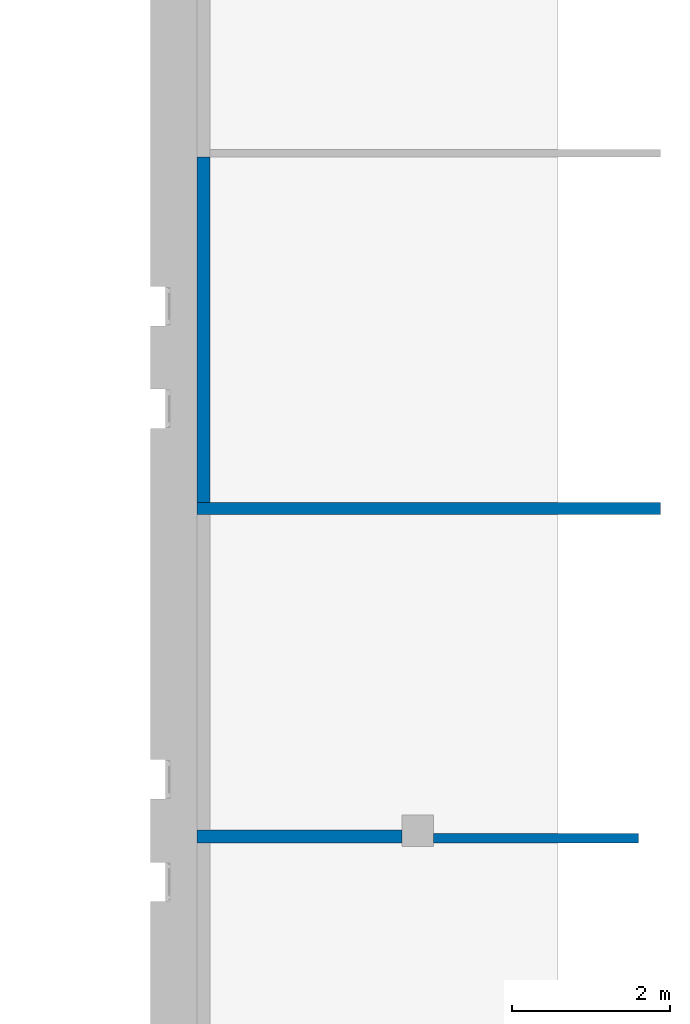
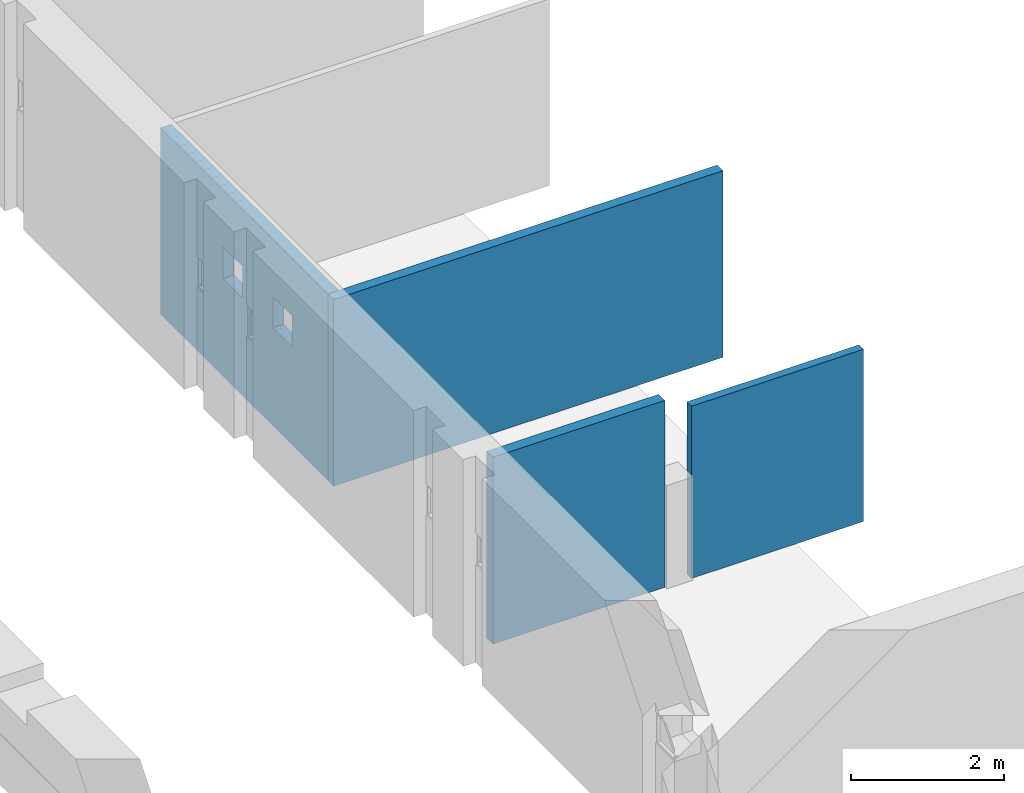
# One storey, part 4 of 11: 4 walls, 15 openings.
"""IFC2X3 building model written with IfcOpenShell, lengths in millimetres."""

from ifc_helpers import new_model, entity, si_unit, converted_unit, derived_unit, direction, frame, frame_2d, origin, origin_2d_with_axis, place, context, subcontext, project, spatial, polyline, circle_curve, parameter, trimmed, segment, composite_curve, rectangle, outline, extrude, clip, bounded_halfspace, material, layer, layer_set, layer_usage, type_object, element, save


model = new_model("IFC2X3")

# Units and contexts
model_context = context("Model", 3, precision=0.01, world=origin(), true_north=direction((6.123031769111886e-17, 1.0)))
body_context = subcontext(model_context, "Body", "Model", "MODEL_VIEW")
ifc_project = project(units=[si_unit("LENGTHUNIT", "METRE", prefix="MILLI"), si_unit("AREAUNIT", "SQUARE_METRE"), si_unit("VOLUMEUNIT", "CUBIC_METRE"), converted_unit("PLANEANGLEUNIT", "DEGREE", entity("IfcPlaneAngleMeasure", 0.017453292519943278), si_unit("PLANEANGLEUNIT", "RADIAN"), dimensions=[0, 0, 0, 0, 0, 0, 0]), si_unit("MASSUNIT", "GRAM", prefix="KILO"), derived_unit("MASSDENSITYUNIT", [(si_unit("MASSUNIT", "GRAM", prefix="KILO"), 1), (si_unit("LENGTHUNIT", "METRE"), -3)]), derived_unit("IONCONCENTRATIONUNIT", [(si_unit("MASSUNIT", "GRAM", prefix="KILO"), 1), (si_unit("LENGTHUNIT", "METRE"), -3)]), derived_unit("MOMENTOFINERTIAUNIT", [(si_unit("LENGTHUNIT", "METRE"), 4)]), si_unit("TIMEUNIT", "SECOND"), si_unit("FREQUENCYUNIT", "HERTZ"), si_unit("THERMODYNAMICTEMPERATUREUNIT", "DEGREE_CELSIUS"), derived_unit("THERMALTRANSMITTANCEUNIT", [(si_unit("MASSUNIT", "GRAM", prefix="KILO"), 1), (si_unit("THERMODYNAMICTEMPERATUREUNIT", "KELVIN"), -1), (si_unit("TIMEUNIT", "SECOND"), -3)]), derived_unit("THERMALCONDUCTANCEUNIT", [(si_unit("MASSUNIT", "GRAM", prefix="KILO"), 1), (si_unit("THERMODYNAMICTEMPERATUREUNIT", "KELVIN"), -1), (si_unit("TIMEUNIT", "SECOND"), -3), (si_unit("LENGTHUNIT", "METRE"), 1)]), derived_unit("VOLUMETRICFLOWRATEUNIT", [(si_unit("LENGTHUNIT", "METRE", prefix="DECI"), 3), (si_unit("TIMEUNIT", "SECOND"), -1)]), derived_unit("MASSFLOWRATEUNIT", [(si_unit("MASSUNIT", "GRAM", prefix="KILO"), 1), (si_unit("TIMEUNIT", "SECOND"), -1)]), derived_unit("ROTATIONALFREQUENCYUNIT", [(si_unit("TIMEUNIT", "SECOND"), -1)]), si_unit("ELECTRICCURRENTUNIT", "AMPERE"), si_unit("ELECTRICVOLTAGEUNIT", "VOLT"), si_unit("POWERUNIT", "WATT"), si_unit("FORCEUNIT", "NEWTON", prefix="KILO"), si_unit("ILLUMINANCEUNIT", "LUX"), si_unit("LUMINOUSFLUXUNIT", "LUMEN"), si_unit("LUMINOUSINTENSITYUNIT", "CANDELA"), si_unit("ENERGYUNIT", "JOULE"), derived_unit("USERDEFINED", [(si_unit("MASSUNIT", "GRAM", prefix="KILO"), -1), (si_unit("LENGTHUNIT", "METRE"), -2), (si_unit("TIMEUNIT", "SECOND"), 3), (si_unit("LUMINOUSFLUXUNIT", "LUMEN"), 1)]), derived_unit("USERDEFINED", [(si_unit("MASSUNIT", "GRAM", prefix="KILO"), 1), (si_unit("TIMEUNIT", "SECOND"), -3), (si_unit("LENGTHUNIT", "METRE"), 3), (si_unit("ELECTRICCURRENTUNIT", "AMPERE"), -2)]), derived_unit("SOUNDPOWERUNIT", [(si_unit("MASSUNIT", "GRAM", prefix="KILO"), 1), (si_unit("TIMEUNIT", "SECOND"), -3), (si_unit("LENGTHUNIT", "METRE"), 2)]), derived_unit("SOUNDPRESSUREUNIT", [(si_unit("MASSUNIT", "GRAM", prefix="KILO"), 1), (si_unit("LENGTHUNIT", "METRE"), -1), (si_unit("TIMEUNIT", "SECOND"), -2)]), derived_unit("LINEARVELOCITYUNIT", [(si_unit("LENGTHUNIT", "METRE"), 1), (si_unit("TIMEUNIT", "SECOND"), -1)]), si_unit("PRESSUREUNIT", "PASCAL"), derived_unit("USERDEFINED", [(si_unit("MASSUNIT", "GRAM", prefix="KILO"), 1), (si_unit("LENGTHUNIT", "METRE"), -2), (si_unit("TIMEUNIT", "SECOND"), -2)]), derived_unit("LINEARFORCEUNIT", [(si_unit("MASSUNIT", "GRAM", prefix="KILO"), 1), (si_unit("TIMEUNIT", "SECOND"), -2)]), derived_unit("PLANARFORCEUNIT", [(si_unit("MASSUNIT", "GRAM", prefix="KILO"), 1), (si_unit("LENGTHUNIT", "METRE"), -1), (si_unit("TIMEUNIT", "SECOND"), -2)]), derived_unit("SPECIFICHEATCAPACITYUNIT", [(si_unit("THERMODYNAMICTEMPERATUREUNIT", "KELVIN"), -1), (si_unit("LENGTHUNIT", "METRE"), 2), (si_unit("TIMEUNIT", "SECOND"), -2)]), derived_unit("HEATFLUXDENSITYUNIT", [(si_unit("MASSUNIT", "GRAM", prefix="KILO"), 1), (si_unit("TIMEUNIT", "SECOND"), -3)]), derived_unit("HEATINGVALUEUNIT", [(si_unit("LENGTHUNIT", "METRE"), 2), (si_unit("TIMEUNIT", "SECOND"), -2)]), derived_unit("VAPORPERMEABILITYUNIT", [(si_unit("LENGTHUNIT", "METRE"), -1), (si_unit("TIMEUNIT", "SECOND"), 1)]), derived_unit("DYNAMICVISCOSITYUNIT", [(si_unit("MASSUNIT", "GRAM", prefix="KILO"), 1), (si_unit("TIMEUNIT", "SECOND"), -1), (si_unit("LENGTHUNIT", "METRE"), -1)]), derived_unit("THERMALEXPANSIONCOEFFICIENTUNIT", [(si_unit("THERMODYNAMICTEMPERATUREUNIT", "KELVIN"), -1)]), derived_unit("MODULUSOFELASTICITYUNIT", [(si_unit("MASSUNIT", "GRAM", prefix="KILO"), 1), (si_unit("LENGTHUNIT", "METRE"), -1), (si_unit("TIMEUNIT", "SECOND"), -2)]), derived_unit("ISOTHERMALMOISTURECAPACITYUNIT", [(si_unit("MASSUNIT", "GRAM", prefix="KILO"), -1), (si_unit("LENGTHUNIT", "METRE"), 3)]), derived_unit("MOISTUREDIFFUSIVITYUNIT", [(si_unit("TIMEUNIT", "SECOND"), -1), (si_unit("LENGTHUNIT", "METRE"), 2)]), derived_unit("MASSPERLENGTHUNIT", [(si_unit("MASSUNIT", "GRAM", prefix="KILO"), 1), (si_unit("LENGTHUNIT", "METRE"), -1)]), derived_unit("THERMALRESISTANCEUNIT", [(si_unit("MASSUNIT", "GRAM", prefix="KILO"), -1), (si_unit("TIMEUNIT", "SECOND"), 3), (si_unit("THERMODYNAMICTEMPERATUREUNIT", "KELVIN"), 1)]), derived_unit("ACCELERATIONUNIT", [(si_unit("LENGTHUNIT", "METRE"), 1), (si_unit("TIMEUNIT", "SECOND"), -2)]), derived_unit("ANGULARVELOCITYUNIT", [(si_unit("TIMEUNIT", "SECOND"), -1), (si_unit("PLANEANGLEUNIT", "RADIAN"), 1)]), derived_unit("LINEARSTIFFNESSUNIT", [(si_unit("MASSUNIT", "GRAM", prefix="KILO"), 1), (si_unit("TIMEUNIT", "SECOND"), -2)]), derived_unit("WARPINGCONSTANTUNIT", [(si_unit("LENGTHUNIT", "METRE"), 6)]), derived_unit("LINEARMOMENTUNIT", [(si_unit("MASSUNIT", "GRAM", prefix="KILO"), 1), (si_unit("LENGTHUNIT", "METRE"), 1), (si_unit("TIMEUNIT", "SECOND"), -2)]), derived_unit("TORQUEUNIT", [(si_unit("MASSUNIT", "GRAM", prefix="KILO"), 1), (si_unit("LENGTHUNIT", "METRE"), 2), (si_unit("TIMEUNIT", "SECOND"), -2)])], contexts=[model_context])

# Site, building, storey
site_placement = place(None, origin())
site = spatial("IfcSite", under=ifc_project, at=site_placement, Name="Default", CompositionType="ELEMENT")
building_placement = place(site_placement, origin())
building = spatial("IfcBuilding", under=site, at=building_placement, Name="Eesti Rahvusraamatukogu hoone renoveerimise projekteerimistööd", CompositionType="ELEMENT")
storey_placement = place(building_placement, frame((0.0, 0.0, -1650.0)))
storey = spatial("IfcBuildingStorey", under=building, at=storey_placement, Name="-1. korrus", CompositionType="ELEMENT", Elevation=-1650.0000000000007)

# Walls
ifc_material_1 = material(Name="ol. olev materjal")
ifc_layer_1 = layer(ifc_material_1, 160.0)
ifc_layer_set_1 = layer_set([ifc_layer_1], Name="Basic Wall:ol. olev - 160mm")
ifc_layer_usage_1 = layer_usage(ifc_layer_set_1, "AXIS2", "NEGATIVE", 80.0)
wall_type_1 = type_object("IfcWallType", Name="Basic Wall:ol. olev - 160mm", PredefinedType="STANDARD", material=ifc_layer_set_1)
wall_1_placement = place(storey_placement, frame((-36190.17342295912, 12315.93108732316, 0.0)))
element("IfcWallStandardCase", 1, at=wall_1_placement, inside=storey, type_object=wall_type_1, material=ifc_layer_usage_1, Name="Basic Wall:ol. olev - 160mm", ObjectType="Basic Wall:ol. olev - 160mm", context=body_context, shape_type="SweptSolid", body=[
    extrude(rectangle(XDim=2600.1734229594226, YDim=159.9999999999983, at=frame_2d((1300.0867114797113, 5.684341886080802e-14), x_axis=(-1.0, 0.0))), origin(), (0.0, 0.0, 1.0), 2985.0000000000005),
])
ifc_layer_2 = layer(ifc_material_1, 120.0)
ifc_layer_set_2 = layer_set([ifc_layer_2], Name="Basic Wall:ol. olev - 120mm")
ifc_layer_usage_2 = layer_usage(ifc_layer_set_2, "AXIS2", "NEGATIVE", 60.0)
wall_type_2 = type_object("IfcWallType", Name="Basic Wall:ol. olev - 120mm", PredefinedType="STANDARD", material=ifc_layer_set_2)
wall_2_placement = place(storey_placement, frame((-33190.0, 12295.931087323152, 0.0)))
element("IfcWallStandardCase", 2, at=wall_2_placement, inside=storey, type_object=wall_type_2, material=ifc_layer_usage_2, Name="Basic Wall:ol. olev - 120mm", ObjectType="Basic Wall:ol. olev - 120mm", context=body_context, shape_type="Clipping", body=[
    clip(extrude(rectangle(XDim=2600.000000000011, YDim=119.99999999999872, at=frame_2d((1300.0000000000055, 5.684341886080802e-14), x_axis=(-1.0, 0.0))), origin(), (0.0, 0.0, 1.0), 2749.999999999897), bounded_halfspace(frame((0.0, -60.0, 2750.0), z_axis=(0.0, 0.0, -1.0), x_axis=(-1.0, 0.0, 0.0)), True, frame((0.0, -60.0, 2750.0), z_axis=(0.0, 0.0, -1.0), x_axis=(-1.0, 0.0, 0.0)), polyline([(0.0, 0.0), (0.0, 120.0), (-2600.0, 120.0), (-2600.0, 0.0), (0.0, 0.0)]))),
])
ifc_material_2 = material(Name="EST. Müüritis. Väikeplokk. Betoon-õõnesplokk")
ifc_layer_3 = layer(ifc_material_2, 150.0)
ifc_layer_set_3 = layer_set([ifc_layer_3], Name="Basic Wall:SS-71 - 150 poorbetoon acoustic")
ifc_layer_usage_3 = layer_usage(ifc_layer_set_3, "AXIS2", "NEGATIVE", 75.0)
wall_type_3 = type_object("IfcWallType", Name="Basic Wall:SS-71 - 150 poorbetoon acoustic", PredefinedType="STANDARD", material=ifc_layer_set_3)
wall_3_placement = place(storey_placement, frame((-36190.17342295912, 16475.0, 0.0)))
element("IfcWallStandardCase", 3, at=wall_3_placement, inside=storey, type_object=wall_type_3, material=ifc_layer_usage_3, Name="Basic Wall:SS-71 - 150 poorbetoon acoustic", ObjectType="Basic Wall:SS-71 - 150 poorbetoon acoustic", context=body_context, shape_type="SweptSolid", body=[
    extrude(rectangle(XDim=5880.17342295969, YDim=150.00000000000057, at=frame_2d((2940.086711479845, -9.237055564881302e-14), x_axis=(-1.0, 0.0))), origin(), (0.0, 0.0, 1.0), 2980.0000000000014),
])

# Wall, openings
ifc_material_3 = material(Name="EST. Ehitusplaat. Kipsplaat")
ifc_layer_4 = layer(ifc_material_3, 14.0)
ifc_material_4 = material(Name="EST. Ehitusplaat. OSB")
ifc_layer_5 = layer(ifc_material_4, 15.0)
ifc_material_5 = material(Name="EST. Õhkvahe. Roov. Kipsplaadi alusroov. Vertikaalne")
ifc_layer_6 = layer(ifc_material_5, 66.0)
ifc_material_6 = material(Name="EST. Soojustus.PIR. Default")
ifc_layer_7 = layer(ifc_material_6, 70.0)
ifc_layer_set_4 = layer_set([ifc_layer_4, ifc_layer_5, ifc_layer_6, ifc_layer_7], Name="Basic Wall:VS-01 - 165 sooj. mitte läbiv")
ifc_layer_usage_4 = layer_usage(ifc_layer_set_4, "AXIS2", "NEGATIVE", 82.49999999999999)
wall_type_4 = type_object("IfcWallType", Name="Basic Wall:VS-01 - 165 sooj. mitte läbiv", PredefinedType="STANDARD", material=ifc_layer_set_4)
wall_4_placement = place(storey_placement, frame((-36107.67342295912, 20930.0, 0.0), z_axis=(0.0, 0.0, 1.0), x_axis=(0.0, -1.0, 0.0)))
wall_4 = element("IfcWallStandardCase", 4, at=wall_4_placement, inside=storey, type_object=wall_type_4, material=ifc_layer_usage_4, Name="Basic Wall:VS-01 - 165 sooj. mitte läbiv", ObjectType="Basic Wall:VS-01 - 165 sooj. mitte läbiv", context=body_context, shape_type="SweptSolid", body=[
    extrude(rectangle(XDim=4380.000000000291, YDim=165.00000000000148, at=frame_2d((2190.0000000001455, -1.6342482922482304e-12), x_axis=(-1.0, 0.0))), origin(), (0.0, 0.0, 1.0), 2980.0000000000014),
])
opening_1_placement = place(wall_4_placement, frame((-3878.404727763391, -234.90000000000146, 1420.0)))
element("IfcOpeningElement", 5, at=opening_1_placement, cuts=wall_4, Name="Basic Wall:VS-01 - 165 sooj. mitte läbiv", ObjectType="Opening", context=body_context, shape_type="SweptSolid", body=[
    extrude(outline(composite_curve([segment(polyline([(-530.3896667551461, -1100.0), (529.6103332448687, -1100.0)]), True, "CONTINUOUS"), segment(trimmed(circle_curve(frame_2d((-913.267637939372, 1.0228095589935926), x_axis=(0.0, -1.0)), 1814.9788061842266), [parameter(52.653685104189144)], [parameter(127.26512850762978)], True, "PARAMETER"), True, "CONTINUOUS"), segment(polyline([(531.1690002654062, 1100.0), (-530.3896667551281, 1100.0)]), True, "CONTINUOUS"), segment(polyline([(-530.3896667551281, 1100.0), (-530.3896667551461, -1100.0)]), True, "CONTINUOUS")], self_intersect=False)), frame((-1101.5952722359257, 0.0, 530.3896667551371), z_axis=(0.0, 1.0, 0.0), x_axis=(0.0, 0.0, 1.0)), (0.0, 0.0, 1.0), 469.8000000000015),
])
opening_2_placement = place(wall_4_placement, frame((-6867.039068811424, -234.90000000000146, 1420.0)))
element("IfcOpeningElement", 6, at=opening_2_placement, cuts=wall_4, Name="Basic Wall:VS-01 - 165 sooj. mitte läbiv", ObjectType="Opening", context=body_context, shape_type="SweptSolid", body=[
    extrude(outline(composite_curve([segment(polyline([(-530.3896667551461, -1100.0), (529.6103332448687, -1100.0)]), True, "CONTINUOUS"), segment(trimmed(circle_curve(frame_2d((-913.267637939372, 1.0228095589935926), x_axis=(0.0, -1.0)), 1814.9788061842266), [parameter(52.653685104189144)], [parameter(127.26512850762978)], True, "PARAMETER"), True, "CONTINUOUS"), segment(polyline([(531.1690002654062, 1100.0), (-530.3896667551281, 1100.0)]), True, "CONTINUOUS"), segment(polyline([(-530.3896667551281, 1100.0), (-530.3896667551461, -1100.0)]), True, "CONTINUOUS")], self_intersect=False)), frame((-1101.5952722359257, 0.0, 530.3896667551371), z_axis=(0.0, 1.0, 0.0), x_axis=(0.0, 0.0, 1.0)), (0.0, 0.0, 1.0), 469.8000000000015),
])
opening_3_placement = place(wall_4_placement, frame((20930.0, 36107.673422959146, 1565.0)))
element("IfcOpeningElement", 7, at=opening_3_placement, cuts=wall_4, Name="Basic Wall:VS-01 - 165 sooj. mitte läbiv", ObjectType="Opening", context=body_context, shape_type="SweptSolid", body=[
    extrude(rectangle(XDim=499.9999999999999, YDim=499.999999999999, at=frame_2d((-4.334310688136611e-12, 0.0), x_axis=(0.0, 1.0))), frame((-47740.0, -37714.173422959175, 250.0), z_axis=(0.0, 1.0, 0.0), x_axis=(-1.0, 0.0, 0.0)), (0.0, 0.0, 1.0), 3048.0),
])
opening_4_placement = place(wall_4_placement, frame((20930.0, 36107.673422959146, 1565.0)))
element("IfcOpeningElement", 8, at=opening_4_placement, cuts=wall_4, Name="Basic Wall:VS-01 - 165 sooj. mitte läbiv", ObjectType="Opening", context=body_context, shape_type="SweptSolid", body=[
    extrude(rectangle(XDim=499.9999999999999, YDim=499.999999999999, at=frame_2d((0.0, -4.334310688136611e-12), x_axis=(1.0, 0.0))), frame((-43040.0, -37714.17342295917, 250.0), z_axis=(0.0, 1.0, 0.0), x_axis=(0.0, 0.0, 1.0)), (0.0, 0.0, 1.0), 3048.0),
])
opening_5_placement = place(wall_4_placement, frame((20930.0, 36107.673422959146, 1565.0)))
element("IfcOpeningElement", 9, at=opening_5_placement, cuts=wall_4, Name="Basic Wall:VS-01 - 165 sooj. mitte läbiv", ObjectType="Opening", context=body_context, shape_type="SweptSolid", body=[
    extrude(rectangle(XDim=499.9999999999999, YDim=499.999999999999, at=frame_2d((-4.334310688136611e-12, 0.0), x_axis=(0.0, 1.0))), frame((-41740.0, -37714.17342295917, 250.0), z_axis=(0.0, 1.0, 0.0), x_axis=(-1.0, 0.0, 0.0)), (0.0, 0.0, 1.0), 3048.0),
])
opening_6_placement = place(wall_4_placement, frame((20930.0, 36107.673422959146, 1565.0)))
element("IfcOpeningElement", 10, at=opening_6_placement, cuts=wall_4, Name="Basic Wall:VS-01 - 165 sooj. mitte läbiv", ObjectType="Opening", context=body_context, shape_type="SweptSolid", body=[
    extrude(rectangle(XDim=499.9999999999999, YDim=499.999999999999, at=origin_2d_with_axis()), frame((-37040.0, -37714.17342295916, 250.0), z_axis=(0.0, 1.0, 0.0), x_axis=(0.0, 0.0, 1.0)), (0.0, 0.0, 1.0), 3048.0),
])
opening_7_placement = place(wall_4_placement, frame((20930.0, 36107.673422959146, 1565.0)))
element("IfcOpeningElement", 11, at=opening_7_placement, cuts=wall_4, Name="Basic Wall:VS-01 - 165 sooj. mitte läbiv", ObjectType="Opening", context=body_context, shape_type="SweptSolid", body=[
    extrude(rectangle(XDim=499.9999999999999, YDim=499.999999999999, at=frame_2d((0.0, 0.0), x_axis=(0.0, 1.0))), frame((-35740.0, -37714.17342295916, 250.0), z_axis=(0.0, 1.0, 0.0), x_axis=(-1.0, 0.0, 0.0)), (0.0, 0.0, 1.0), 3048.0),
])
opening_8_placement = place(wall_4_placement, frame((20930.0, 36107.673422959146, 1565.0)))
element("IfcOpeningElement", 12, at=opening_8_placement, cuts=wall_4, Name="Basic Wall:VS-01 - 165 sooj. mitte läbiv", ObjectType="Opening", context=body_context, shape_type="SweptSolid", body=[
    extrude(rectangle(XDim=499.9999999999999, YDim=499.999999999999, at=origin_2d_with_axis()), frame((-31040.0, -37714.17342295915, 250.0), z_axis=(0.0, 1.0, 0.0), x_axis=(0.0, 0.0, 1.0)), (0.0, 0.0, 1.0), 3048.0),
])
opening_9_placement = place(wall_4_placement, frame((20930.0, 36107.673422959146, 1565.0)))
element("IfcOpeningElement", 13, at=opening_9_placement, cuts=wall_4, Name="Basic Wall:VS-01 - 165 sooj. mitte läbiv", ObjectType="Opening", context=body_context, shape_type="SweptSolid", body=[
    extrude(rectangle(XDim=499.9999999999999, YDim=499.999999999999, at=origin_2d_with_axis()), frame((-19040.0, -37714.17342295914, 250.0), z_axis=(0.0, 1.0, 0.0), x_axis=(0.0, 0.0, 1.0)), (0.0, 0.0, 1.0), 3048.0),
])
opening_10_placement = place(wall_4_placement, frame((20930.0, 36107.673422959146, 1565.0)))
element("IfcOpeningElement", 14, at=opening_10_placement, cuts=wall_4, Name="Basic Wall:VS-01 - 165 sooj. mitte läbiv", ObjectType="Opening", context=body_context, shape_type="SweptSolid", body=[
    extrude(rectangle(XDim=499.9999999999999, YDim=500.00000000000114, at=frame_2d((-1.0800249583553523e-12, 0.0), x_axis=(0.0, 1.0))), frame((-17740.0, -37714.17342295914, 250.0), z_axis=(0.0, 1.0, 0.0), x_axis=(-1.0, 0.0, 0.0)), (0.0, 0.0, 1.0), 3048.0),
])
opening_11_placement = place(wall_4_placement, frame((20930.0, 36107.673422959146, 1565.0)))
element("IfcOpeningElement", 15, at=opening_11_placement, cuts=wall_4, Name="Basic Wall:VS-01 - 165 sooj. mitte läbiv", ObjectType="Opening", context=body_context, shape_type="SweptSolid", body=[
    extrude(rectangle(XDim=499.9999999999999, YDim=499.999999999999, at=origin_2d_with_axis()), frame((-13040.0, -37714.17342295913, 250.0), z_axis=(0.0, 1.0, 0.0), x_axis=(0.0, 0.0, 1.0)), (0.0, 0.0, 1.0), 3048.0),
])
opening_12_placement = place(wall_4_placement, frame((20930.0, 36107.673422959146, 1565.0)))
element("IfcOpeningElement", 16, at=opening_12_placement, cuts=wall_4, Name="Basic Wall:VS-01 - 165 sooj. mitte läbiv", ObjectType="Opening", context=body_context, shape_type="SweptSolid", body=[
    extrude(rectangle(XDim=499.9999999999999, YDim=500.00000000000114, at=frame_2d((1.0800249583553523e-12, 0.0), x_axis=(0.0, 1.0))), frame((-11740.0, -37714.17342295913, 250.0), z_axis=(0.0, 1.0, 0.0), x_axis=(-1.0, 0.0, 0.0)), (0.0, 0.0, 1.0), 3048.0),
])
opening_13_placement = place(wall_4_placement, frame((20930.0, 36107.673422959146, 1565.0)))
element("IfcOpeningElement", 17, at=opening_13_placement, cuts=wall_4, Name="Basic Wall:VS-01 - 165 sooj. mitte läbiv", ObjectType="Opening", context=body_context, shape_type="SweptSolid", body=[
    extrude(rectangle(XDim=499.9999999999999, YDim=500.00000000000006, at=frame_2d((0.0, 5.400124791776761e-13), x_axis=(1.0, 0.0))), frame((-7040.0, -37714.173422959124, 250.0), z_axis=(0.0, 1.0, 0.0), x_axis=(0.0, 0.0, 1.0)), (0.0, 0.0, 1.0), 3048.0),
])
opening_14_placement = place(wall_4_placement, frame((20930.0, 36107.673422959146, 1565.0)))
element("IfcOpeningElement", 18, at=opening_14_placement, cuts=wall_4, Name="Basic Wall:VS-01 - 165 sooj. mitte läbiv", ObjectType="Opening", context=body_context, shape_type="SweptSolid", body=[
    extrude(rectangle(XDim=499.9999999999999, YDim=499.999999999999, at=frame_2d((1.4210854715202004e-14, 0.0), x_axis=(1.0, 0.0))), frame((-23740.0, -37714.173422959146, 250.0), z_axis=(0.0, 1.0, 0.0), x_axis=(0.0, 0.0, 1.0)), (0.0, 0.0, 1.0), 3048.0),
])
opening_15_placement = place(wall_4_placement, frame((20930.0, 36107.673422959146, 1650.0)))
element("IfcOpeningElement", 19, at=opening_15_placement, cuts=wall_4, Name="Basic Wall:VS-01 - 165 sooj. mitte läbiv", ObjectType="Opening", context=body_context, shape_type="SweptSolid", body=[
    extrude(rectangle(XDim=3600.000000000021, YDim=499.999999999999, at=origin_2d_with_axis()), frame((-7040.0, -36790.0, 150.0), z_axis=(0.0, 1.0, 0.0), x_axis=(0.0, 0.0, -1.0)), (0.0, 0.0, 1.0), 199.99999999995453),
    extrude(rectangle(XDim=3600.000000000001, YDim=499.999999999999, at=frame_2d((0.0, -4.334310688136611e-12), x_axis=(1.0, 0.0))), frame((-47740.0, -36790.0, 150.0), z_axis=(0.0, 1.0, 0.0), x_axis=(0.0, 0.0, -1.0)), (0.0, 0.0, 1.0), 199.99999999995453),
    extrude(rectangle(XDim=3599.9999999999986, YDim=499.999999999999, at=frame_2d((0.0, -4.334310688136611e-12), x_axis=(1.0, 0.0))), frame((-43040.0, -36790.0, 150.0), z_axis=(0.0, 1.0, 0.0), x_axis=(0.0, 0.0, -1.0)), (0.0, 0.0, 1.0), 199.99999999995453),
    extrude(rectangle(XDim=3600.0000000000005, YDim=499.999999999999, at=frame_2d((2.2737367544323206e-13, -4.334310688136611e-12), x_axis=(1.0, 0.0))), frame((-41740.0, -36790.0, 150.0), z_axis=(0.0, 1.0, 0.0), x_axis=(0.0, 0.0, -1.0)), (0.0, 0.0, 1.0), 199.99999999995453),
    extrude(rectangle(XDim=3599.999999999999, YDim=499.999999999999, at=origin_2d_with_axis()), frame((-37040.0, -36790.0, 150.0), z_axis=(0.0, 1.0, 0.0), x_axis=(0.0, 0.0, -1.0)), (0.0, 0.0, 1.0), 199.99999999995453),
    extrude(rectangle(XDim=3599.999999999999, YDim=499.999999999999, at=origin_2d_with_axis()), frame((-35740.0, -36790.0, 150.0), z_axis=(0.0, 1.0, 0.0), x_axis=(0.0, 0.0, -1.0)), (0.0, 0.0, 1.0), 199.99999999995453),
    extrude(rectangle(XDim=3599.9999999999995, YDim=499.999999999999, at=frame_2d((-2.2737367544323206e-13, 0.0), x_axis=(1.0, 0.0))), frame((-31040.0, -36790.0, 150.0), z_axis=(0.0, 1.0, 0.0), x_axis=(0.0, 0.0, -1.0)), (0.0, 0.0, 1.0), 199.99999999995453),
    extrude(rectangle(XDim=3600.000000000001, YDim=499.999999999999, at=origin_2d_with_axis()), frame((-23740.0, -36790.0, 150.0), z_axis=(0.0, 1.0, 0.0), x_axis=(0.0, 0.0, -1.0)), (0.0, 0.0, 1.0), 199.99999999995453),
    extrude(rectangle(XDim=3600.0000000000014, YDim=500.0000000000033, at=frame_2d((-2.2737367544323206e-13, 2.1600499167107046e-12), x_axis=(1.0, 0.0))), frame((-19040.0, -36790.0, 150.0), z_axis=(0.0, 1.0, 0.0), x_axis=(0.0, 0.0, -1.0)), (0.0, 0.0, 1.0), 199.99999999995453),
    extrude(rectangle(XDim=3600.000000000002, YDim=499.999999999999, at=origin_2d_with_axis()), frame((-17740.0, -36790.0, 150.0), z_axis=(0.0, 1.0, 0.0), x_axis=(0.0, 0.0, -1.0)), (0.0, 0.0, 1.0), 199.99999999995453),
    extrude(rectangle(XDim=3600.0000000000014, YDim=500.0000000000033, at=origin_2d_with_axis()), frame((-13040.0, -36790.0, 150.0), z_axis=(0.0, 1.0, 0.0), x_axis=(0.0, 0.0, -1.0)), (0.0, 0.0, 1.0), 199.99999999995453),
    extrude(rectangle(XDim=3600.0000000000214, YDim=499.999999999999, at=origin_2d_with_axis()), frame((-11740.0, -36790.0, 150.0), z_axis=(0.0, 1.0, 0.0), x_axis=(0.0, 0.0, -1.0)), (0.0, 0.0, 1.0), 199.99999999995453),
])

save(model, "model.ifc")
